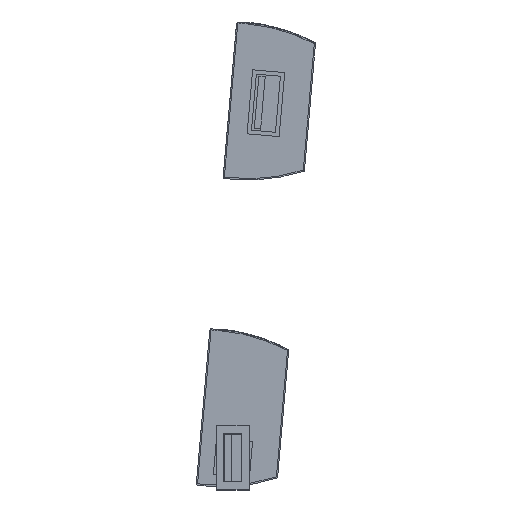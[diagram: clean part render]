
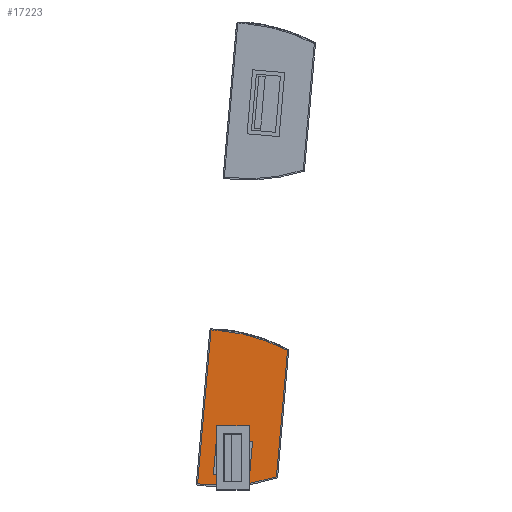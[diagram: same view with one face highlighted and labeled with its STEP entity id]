
A CAD part, left-side view. The second image highlights one B-rep face of the part: STEP entity #17223.
In plain terms, the highlighted planar face has unit normal (-1, 0, 0) as drawn and (0, 0, 1) by its records, which use the part's own axes.
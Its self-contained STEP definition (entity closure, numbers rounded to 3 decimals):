
#143 = CARTESIAN_POINT ( 'NONE',  ( -16.5, -3., 32.4 ) ) ;
#183 = CARTESIAN_POINT ( 'NONE',  ( -16.5, -3., 32.4 ) ) ;
#282 = LINE ( 'NONE', #7331, #11578 ) ;
#415 = EDGE_CURVE ( 'NONE', #18598, #14571, #11766, .T. ) ;
#416 = VERTEX_POINT ( 'NONE', #18317 ) ;
#471 = LINE ( 'NONE', #16968, #16628 ) ;
#1259 = CARTESIAN_POINT ( 'NONE',  ( -25.434, 7.557, 32.4 ) ) ;
#1493 = DIRECTION ( 'NONE',  ( 0., 0., 1. ) ) ;
#1565 = DIRECTION ( 'NONE',  ( 1., 0., 0. ) ) ;
#1634 = DIRECTION ( 'NONE',  ( 1., 0., 0. ) ) ;
#1907 = FACE_OUTER_BOUND ( 'NONE', #10308, .T. ) ;
#1927 = LINE ( 'NONE', #20230, #17815 ) ;
#2291 = DIRECTION ( 'NONE',  ( 0., 1., 0. ) ) ;
#2787 = DIRECTION ( 'NONE',  ( 0., 0., 1. ) ) ;
#2866 = CARTESIAN_POINT ( 'NONE',  ( -16.5, 6., 32.4 ) ) ;
#3619 = EDGE_CURVE ( 'NONE', #416, #9272, #12448, .T. ) ;
#4351 = VECTOR ( 'NONE', #6949, 1000. ) ;
#5682 = ORIENTED_EDGE ( 'NONE', *, *, #10152, .T. ) ;
#5737 = LINE ( 'NONE', #10274, #14683 ) ;
#6153 = CIRCLE ( 'NONE', #12141, 44.7 ) ;
#6517 = CARTESIAN_POINT ( 'NONE',  ( -25.434, 7.557, 32.4 ) ) ;
#6710 = CARTESIAN_POINT ( 'NONE',  ( 15.801, -9.7, 32.4 ) ) ;
#6795 = ORIENTED_EDGE ( 'NONE', *, *, #10449, .F. ) ;
#6905 = AXIS2_PLACEMENT_3D ( 'NONE', #6517, #1493, #1565 ) ;
#6949 = DIRECTION ( 'NONE',  ( 1., 0., 0. ) ) ;
#7331 = CARTESIAN_POINT ( 'NONE',  ( -15.801, -9.7, 32.4 ) ) ;
#7913 = DIRECTION ( 'NONE',  ( 1., 0., 0. ) ) ;
#8249 = ORIENTED_EDGE ( 'NONE', *, *, #12127, .T. ) ;
#8395 = VERTEX_POINT ( 'NONE', #6710 ) ;
#8639 = EDGE_CURVE ( 'NONE', #18533, #16070, #1927, .T. ) ;
#9042 = CARTESIAN_POINT ( 'NONE',  ( -7.5, -3., 32.4 ) ) ;
#9272 = VERTEX_POINT ( 'NONE', #2866 ) ;
#9363 = CARTESIAN_POINT ( 'NONE',  ( 25.434, 7.557, 32.4 ) ) ;
#9558 = CARTESIAN_POINT ( 'NONE',  ( 19.215, 9.7, 32.4 ) ) ;
#9661 = ORIENTED_EDGE ( 'NONE', *, *, #21029, .T. ) ;
#9852 = PLANE ( 'NONE',  #20288 ) ;
#10025 = VERTEX_POINT ( 'NONE', #20837 ) ;
#10091 = FACE_BOUND ( 'NONE', #18836, .T. ) ;
#10152 = EDGE_CURVE ( 'NONE', #8395, #11034, #11879, .T. ) ;
#10274 = CARTESIAN_POINT ( 'NONE',  ( -16.5, 6., 32.4 ) ) ;
#10308 = EDGE_LOOP ( 'NONE', ( #9661, #15324, #5682, #8249, #11533 ) ) ;
#10449 = EDGE_CURVE ( 'NONE', #9272, #18598, #5737, .T. ) ;
#11034 = VERTEX_POINT ( 'NONE', #18808 ) ;
#11533 = ORIENTED_EDGE ( 'NONE', *, *, #8639, .T. ) ;
#11578 = VECTOR ( 'NONE', #20712, 1000. ) ;
#11766 = LINE ( 'NONE', #143, #4351 ) ;
#11879 = CIRCLE ( 'NONE', #6905, 44.7 ) ;
#12127 = EDGE_CURVE ( 'NONE', #11034, #18533, #6153, .T. ) ;
#12141 = AXIS2_PLACEMENT_3D ( 'NONE', #1259, #2787, #7913 ) ;
#12448 = LINE ( 'NONE', #15919, #20896 ) ;
#12683 = DIRECTION ( 'NONE',  ( 0., 0., 1. ) ) ;
#13104 = DIRECTION ( 'NONE',  ( 0., 0., 1. ) ) ;
#13267 = CARTESIAN_POINT ( 'NONE',  ( -19.215, 9.7, 32.4 ) ) ;
#13616 = ORIENTED_EDGE ( 'NONE', *, *, #20902, .F. ) ;
#14571 = VERTEX_POINT ( 'NONE', #9042 ) ;
#14683 = VECTOR ( 'NONE', #16945, 1000. ) ;
#14878 = CARTESIAN_POINT ( 'NONE',  ( 25.434, 7.557, 32.4 ) ) ;
#15049 = ORIENTED_EDGE ( 'NONE', *, *, #415, .F. ) ;
#15324 = ORIENTED_EDGE ( 'NONE', *, *, #19115, .T. ) ;
#15361 = AXIS2_PLACEMENT_3D ( 'NONE', #9363, #12683, #20835 ) ;
#15625 = DIRECTION ( 'NONE',  ( -1., 0., 0. ) ) ;
#15919 = CARTESIAN_POINT ( 'NONE',  ( -16.5, 6., 32.4 ) ) ;
#16070 = VERTEX_POINT ( 'NONE', #13267 ) ;
#16470 = ORIENTED_EDGE ( 'NONE', *, *, #3619, .F. ) ;
#16628 = VECTOR ( 'NONE', #2291, 1000. ) ;
#16945 = DIRECTION ( 'NONE',  ( 0., -1., 0. ) ) ;
#16968 = CARTESIAN_POINT ( 'NONE',  ( -7.5, 6., 32.4 ) ) ;
#17143 = CIRCLE ( 'NONE', #15361, 44.7 ) ;
#17223 = ADVANCED_FACE ( 'NONE', ( #1907, #10091 ), #9852, .T. ) ;
#17570 = DIRECTION ( 'NONE',  ( -1., 0., 0. ) ) ;
#17815 = VECTOR ( 'NONE', #15625, 1000. ) ;
#18317 = CARTESIAN_POINT ( 'NONE',  ( -7.5, 6., 32.4 ) ) ;
#18533 = VERTEX_POINT ( 'NONE', #9558 ) ;
#18598 = VERTEX_POINT ( 'NONE', #183 ) ;
#18808 = CARTESIAN_POINT ( 'NONE',  ( 19.266, 7.557, 32.4 ) ) ;
#18836 = EDGE_LOOP ( 'NONE', ( #16470, #13616, #15049, #6795 ) ) ;
#19115 = EDGE_CURVE ( 'NONE', #10025, #8395, #282, .T. ) ;
#20230 = CARTESIAN_POINT ( 'NONE',  ( 19.215, 9.7, 32.4 ) ) ;
#20288 = AXIS2_PLACEMENT_3D ( 'NONE', #14878, #13104, #1634 ) ;
#20712 = DIRECTION ( 'NONE',  ( 1., 0., 0. ) ) ;
#20835 = DIRECTION ( 'NONE',  ( 1., 0., 0. ) ) ;
#20837 = CARTESIAN_POINT ( 'NONE',  ( -15.801, -9.7, 32.4 ) ) ;
#20896 = VECTOR ( 'NONE', #17570, 1000. ) ;
#20902 = EDGE_CURVE ( 'NONE', #14571, #416, #471, .T. ) ;
#21029 = EDGE_CURVE ( 'NONE', #16070, #10025, #17143, .T. ) ;
